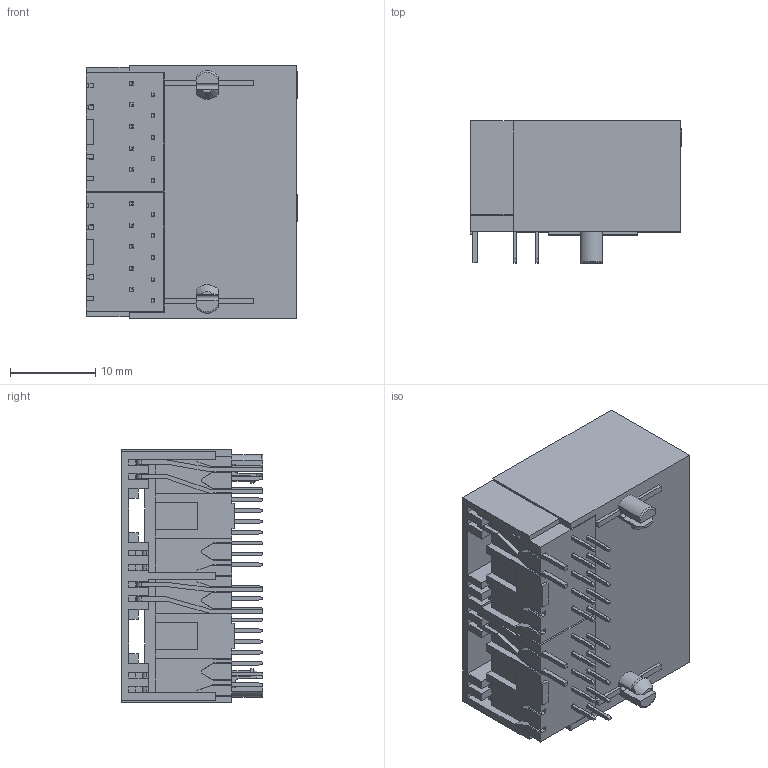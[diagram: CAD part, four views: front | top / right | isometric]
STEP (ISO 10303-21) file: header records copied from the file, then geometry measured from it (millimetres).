
FILE_DESCRIPTION((''),'2;1');
FILE_NAME('312-210618_ASM_1_ASM_1_ASM','2025-12-22T11:46:04',('DGKYD'),(''),'CREO PARAMETRIC BY PTC INC, 2019010','CREO PARAMETRIC BY PTC INC, 2019010','');
FILE_SCHEMA(('CONFIG_CONTROL_DESIGN'));
Products named in the file (38): MSBR-44_1_1; MSBR-43_1_1; MSBR-42_1_1; MSBR-41_1_1; MSBR-40_1_1; MSBR-39_1_1; MSBR-38_1_1; MSBR-37_1_1; MSBR-36_1_1; MSBR-34_1_1; MSBR-33_1_1; MSBR-32_1_1; MSBR-31_1_1; MSBR-30_1_1; MSBR-29_1_1; MSBR-28_1_1; MSBR-27_1_1; MSBR-26_1_1; MSBR-24_1_1; MSBR-22_1_1; MSBR-21_1_1; MSBR-20_1_1; MSBR-19_1_1; MSBR-18_1_1; MSBR-17_1_1; MSBR-16_1_1; MSBR-15_1_1; MSBR-12_1_1; MSBR-11_1_1; MSBR-9_1_1; MSBR-8_1_1; MSBR-7_1_1; MSBR-6_1_1; MSBR-5_1_1; MSBR-4_1_1; MSBR-3_1_1; MSBR-2_1_1; 312-210618_ASM_1_ASM_1_ASM
Assembly tree (41 placements, depth 2):
  312-210618_ASM_1_ASM_1_ASM
    MSBR-44_1_1
    MSBR-43_1_1
    MSBR-42_1_1
    MSBR-41_1_1
    MSBR-40_1_1
    MSBR-39_1_1
    MSBR-38_1_1
    MSBR-37_1_1
    MSBR-36_1_1
    MSBR-34_1_1
    MSBR-33_1_1
    MSBR-32_1_1
    MSBR-31_1_1
    MSBR-30_1_1
    MSBR-29_1_1
    MSBR-28_1_1
    MSBR-27_1_1
    MSBR-26_1_1
    MSBR-24_1_1
    MSBR-22_1_1  x2
    MSBR-21_1_1
    MSBR-20_1_1
    MSBR-19_1_1
    MSBR-18_1_1
    MSBR-17_1_1
    MSBR-16_1_1
    MSBR-15_1_1  x2
    MSBR-12_1_1
    MSBR-11_1_1
    MSBR-9_1_1  x2
    MSBR-8_1_1
    MSBR-7_1_1
    MSBR-6_1_1
    MSBR-5_1_1
    MSBR-4_1_1
    MSBR-3_1_1
    MSBR-2_1_1  x2
Bounding box: 24.84 x 16.65 x 29.8 mm (x, y, z)
Volume: 4342.6 mm3; surface area: 9619.5 mm2
Topology: 41 solids, 41 shells, 3670 faces, 10342 edges, 6726 vertices
Faces by surface type: plane 2910, cylinder 756, torus 2, cone 2
Entity records: 111153 total; most frequent: CARTESIAN_POINT 19952, ORIENTED_EDGE 19468, DIRECTION 18185, EDGE_CURVE 9734, VECTOR 8185, LINE 8185, VERTEX_POINT 6342, AXIS2_PLACEMENT_3D 5000
